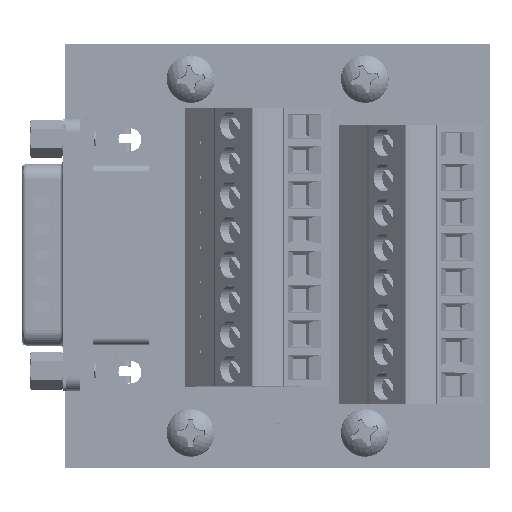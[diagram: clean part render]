
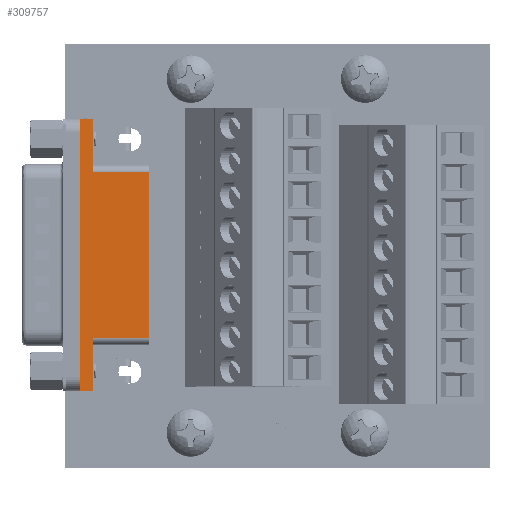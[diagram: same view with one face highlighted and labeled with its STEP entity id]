
A CAD part, top view. The second image highlights one B-rep face of the part: STEP entity #309757.
In plain terms, the highlighted planar face has unit normal (0, 0, 1) as drawn and (0, 1, 0) by its records, which use the part's own axes.
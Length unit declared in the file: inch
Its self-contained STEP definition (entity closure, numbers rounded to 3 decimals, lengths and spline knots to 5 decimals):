
#1709 = LINE ( 'NONE', #26080, #250291 ) ;
#3559 = EDGE_CURVE ( 'NONE', #109594, #193086, #323952, .T. ) ;
#6822 = DIRECTION ( 'NONE',  ( 0., 1., 0. ) ) ;
#12607 = VERTEX_POINT ( 'NONE', #36931 ) ;
#20519 = EDGE_CURVE ( 'NONE', #271961, #292694, #26620, .T. ) ;
#24039 = VERTEX_POINT ( 'NONE', #204620 ) ;
#26080 = CARTESIAN_POINT ( 'NONE',  ( 0.4689, 0.16142, 0.15157 ) ) ;
#26620 = LINE ( 'NONE', #54320, #157293 ) ;
#32953 = LINE ( 'NONE', #45626, #125939 ) ;
#36829 = EDGE_CURVE ( 'NONE', #24039, #113824, #1709, .T. ) ;
#36931 = CARTESIAN_POINT ( 'NONE',  ( -0.77047, 0.16142, 0.07874 ) ) ;
#45626 = CARTESIAN_POINT ( 'NONE',  ( 0.77047, 0.16142, -0.09055 ) ) ;
#47021 = ORIENTED_EDGE ( 'NONE', *, *, #99944, .F. ) ;
#52282 = VERTEX_POINT ( 'NONE', #99539 ) ;
#53137 = DIRECTION ( 'NONE',  ( 1., 0., 0. ) ) ;
#54320 = CARTESIAN_POINT ( 'NONE',  ( 0.4689, 0.16142, 0.15157 ) ) ;
#65496 = DIRECTION ( 'NONE',  ( 0., 0., 1. ) ) ;
#73863 = DIRECTION ( 'NONE',  ( 0., 0., 1. ) ) ;
#86671 = VECTOR ( 'NONE', #304955, 39.37008 ) ;
#90299 = CARTESIAN_POINT ( 'NONE',  ( 0.4689, 0.16142, 0.07874 ) ) ;
#92013 = VECTOR ( 'NONE', #224040, 39.37008 ) ;
#92624 = FACE_OUTER_BOUND ( 'NONE', #171958, .T. ) ;
#95820 = CARTESIAN_POINT ( 'NONE',  ( 0.4689, 0.16142, 0.15157 ) ) ;
#99539 = CARTESIAN_POINT ( 'NONE',  ( 0.77047, 0.16142, 0.07874 ) ) ;
#99944 = EDGE_CURVE ( 'NONE', #12607, #52282, #336715, .T. ) ;
#101705 = ORIENTED_EDGE ( 'NONE', *, *, #322973, .T. ) ;
#108815 = CARTESIAN_POINT ( 'NONE',  ( -0.4689, 0.16142, 0.15157 ) ) ;
#109594 = VERTEX_POINT ( 'NONE', #214840 ) ;
#113824 = VERTEX_POINT ( 'NONE', #108815 ) ;
#114126 = CARTESIAN_POINT ( 'NONE',  ( 0.4689, 0.16142, 0.07874 ) ) ;
#116292 = PLANE ( 'NONE',  #233259 ) ;
#125939 = VECTOR ( 'NONE', #73863, 39.37008 ) ;
#135469 = LINE ( 'NONE', #114126, #224178 ) ;
#137881 = CARTESIAN_POINT ( 'NONE',  ( -0.4689, 0.16142, 0.47244 ) ) ;
#138239 = EDGE_CURVE ( 'NONE', #52282, #292694, #32953, .T. ) ;
#140010 = DIRECTION ( 'NONE',  ( 0., 0., -1. ) ) ;
#141564 = ORIENTED_EDGE ( 'NONE', *, *, #168070, .T. ) ;
#152621 = ORIENTED_EDGE ( 'NONE', *, *, #215507, .F. ) ;
#157293 = VECTOR ( 'NONE', #300554, 39.37008 ) ;
#168070 = EDGE_CURVE ( 'NONE', #109594, #271961, #135469, .T. ) ;
#171958 = EDGE_LOOP ( 'NONE', ( #343140, #315295, #47021, #152621, #257454, #101705, #290159, #141564 ) ) ;
#186703 = CARTESIAN_POINT ( 'NONE',  ( 0., 0.16142, 0.07874 ) ) ;
#187033 = LINE ( 'NONE', #197895, #342853 ) ;
#193086 = VERTEX_POINT ( 'NONE', #137881 ) ;
#193416 = VECTOR ( 'NONE', #266830, 39.37008 ) ;
#196289 = LINE ( 'NONE', #197767, #86671 ) ;
#197767 = CARTESIAN_POINT ( 'NONE',  ( -0.4689, 0.16142, 0.07874 ) ) ;
#197895 = CARTESIAN_POINT ( 'NONE',  ( -0.77047, 0.16142, -0.09055 ) ) ;
#204620 = CARTESIAN_POINT ( 'NONE',  ( -0.77047, 0.16142, 0.15157 ) ) ;
#214840 = CARTESIAN_POINT ( 'NONE',  ( 0.4689, 0.16142, 0.47244 ) ) ;
#215507 = EDGE_CURVE ( 'NONE', #24039, #12607, #187033, .T. ) ;
#224040 = DIRECTION ( 'NONE',  ( -1., 0., 0. ) ) ;
#224178 = VECTOR ( 'NONE', #140010, 39.37008 ) ;
#233259 = AXIS2_PLACEMENT_3D ( 'NONE', #90299, #6822, #65496 ) ;
#250291 = VECTOR ( 'NONE', #53137, 39.37008 ) ;
#257454 = ORIENTED_EDGE ( 'NONE', *, *, #36829, .T. ) ;
#266830 = DIRECTION ( 'NONE',  ( 1., 0., 0. ) ) ;
#271961 = VERTEX_POINT ( 'NONE', #95820 ) ;
#290159 = ORIENTED_EDGE ( 'NONE', *, *, #3559, .F. ) ;
#292694 = VERTEX_POINT ( 'NONE', #345095 ) ;
#300554 = DIRECTION ( 'NONE',  ( 1., 0., 0. ) ) ;
#301600 = DIRECTION ( 'NONE',  ( 0., 0., -1. ) ) ;
#304955 = DIRECTION ( 'NONE',  ( 0., 0., 1. ) ) ;
#307605 = CARTESIAN_POINT ( 'NONE',  ( 0., 0.16142, 0.47244 ) ) ;
#309757 = ADVANCED_FACE ( 'NONE', ( #92624 ), #116292, .T. ) ;
#315295 = ORIENTED_EDGE ( 'NONE', *, *, #138239, .F. ) ;
#322973 = EDGE_CURVE ( 'NONE', #113824, #193086, #196289, .T. ) ;
#323952 = LINE ( 'NONE', #307605, #92013 ) ;
#336715 = LINE ( 'NONE', #186703, #193416 ) ;
#342853 = VECTOR ( 'NONE', #301600, 39.37008 ) ;
#343140 = ORIENTED_EDGE ( 'NONE', *, *, #20519, .T. ) ;
#345095 = CARTESIAN_POINT ( 'NONE',  ( 0.77047, 0.16142, 0.15157 ) ) ;
